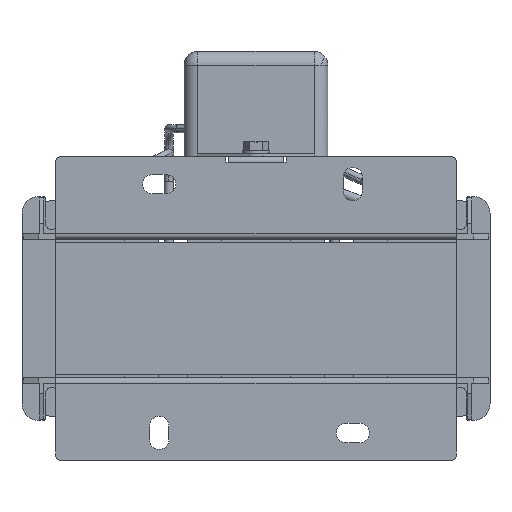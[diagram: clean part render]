
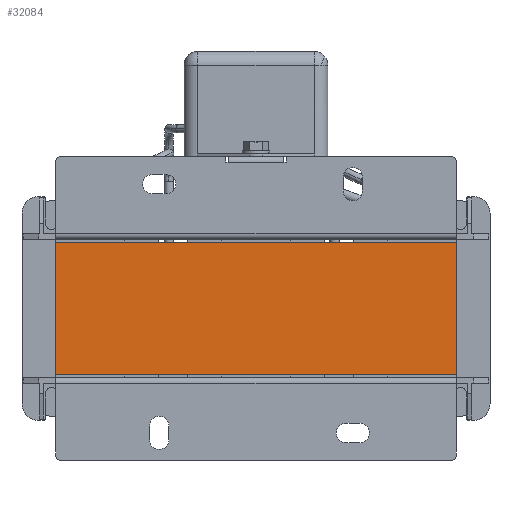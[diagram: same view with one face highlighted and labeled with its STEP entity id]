
A CAD part, front view. The second image highlights one B-rep face of the part: STEP entity #32084.
In plain terms, the highlighted planar face has unit normal (0, -1, 0).
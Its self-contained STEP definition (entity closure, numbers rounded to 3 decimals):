
#953 = LINE ( 'NONE', #19283, #50764 ) ;
#1758 = EDGE_CURVE ( 'NONE', #27779, #20472, #953, .T. ) ;
#4599 = VECTOR ( 'NONE', #25954, 1000. ) ;
#7275 = CARTESIAN_POINT ( 'NONE',  ( -72.5, -64., 48. ) ) ;
#7413 = VECTOR ( 'NONE', #44070, 1000. ) ;
#10026 = EDGE_LOOP ( 'NONE', ( #14296, #26269, #22568, #52557 ) ) ;
#13313 = CARTESIAN_POINT ( 'NONE',  ( 72.5, -64., 48. ) ) ;
#13440 = CARTESIAN_POINT ( 'NONE',  ( -72.5, -64., 48. ) ) ;
#13731 = DIRECTION ( 'NONE',  ( 0., 1., 0. ) ) ;
#14296 = ORIENTED_EDGE ( 'NONE', *, *, #21223, .F. ) ;
#16414 = CARTESIAN_POINT ( 'NONE',  ( -72.5, -64., 0. ) ) ;
#17433 = VECTOR ( 'NONE', #54314, 1000. ) ;
#19283 = CARTESIAN_POINT ( 'NONE',  ( -72.5, -64., 48. ) ) ;
#20472 = VERTEX_POINT ( 'NONE', #7275 ) ;
#21223 = EDGE_CURVE ( 'NONE', #48877, #59271, #44728, .T. ) ;
#22568 = ORIENTED_EDGE ( 'NONE', *, *, #1758, .F. ) ;
#24556 = LINE ( 'NONE', #16414, #7413 ) ;
#25954 = DIRECTION ( 'NONE',  ( 1., 0., 0. ) ) ;
#26269 = ORIENTED_EDGE ( 'NONE', *, *, #44338, .F. ) ;
#27779 = VERTEX_POINT ( 'NONE', #34876 ) ;
#27872 = CARTESIAN_POINT ( 'NONE',  ( 72.5, -64., 0. ) ) ;
#32065 = DIRECTION ( 'NONE',  ( 0., 0., 1. ) ) ;
#32084 = ADVANCED_FACE ( 'NONE', ( #53729 ), #58547, .F. ) ;
#32090 = LINE ( 'NONE', #49238, #4599 ) ;
#34876 = CARTESIAN_POINT ( 'NONE',  ( -72.5, -64., 0. ) ) ;
#37598 = DIRECTION ( 'NONE',  ( 0., 0., 1. ) ) ;
#44070 = DIRECTION ( 'NONE',  ( -1., 0., 0. ) ) ;
#44338 = EDGE_CURVE ( 'NONE', #20472, #48877, #32090, .T. ) ;
#44655 = AXIS2_PLACEMENT_3D ( 'NONE', #13440, #13731, #32065 ) ;
#44728 = LINE ( 'NONE', #55188, #17433 ) ;
#48877 = VERTEX_POINT ( 'NONE', #13313 ) ;
#49238 = CARTESIAN_POINT ( 'NONE',  ( 0., -64., 48. ) ) ;
#50764 = VECTOR ( 'NONE', #37598, 1000. ) ;
#52557 = ORIENTED_EDGE ( 'NONE', *, *, #56555, .F. ) ;
#53729 = FACE_OUTER_BOUND ( 'NONE', #10026, .T. ) ;
#54314 = DIRECTION ( 'NONE',  ( 0., 0., -1. ) ) ;
#55188 = CARTESIAN_POINT ( 'NONE',  ( 72.5, -64., 48. ) ) ;
#56555 = EDGE_CURVE ( 'NONE', #59271, #27779, #24556, .T. ) ;
#58547 = PLANE ( 'NONE',  #44655 ) ;
#59271 = VERTEX_POINT ( 'NONE', #27872 ) ;
